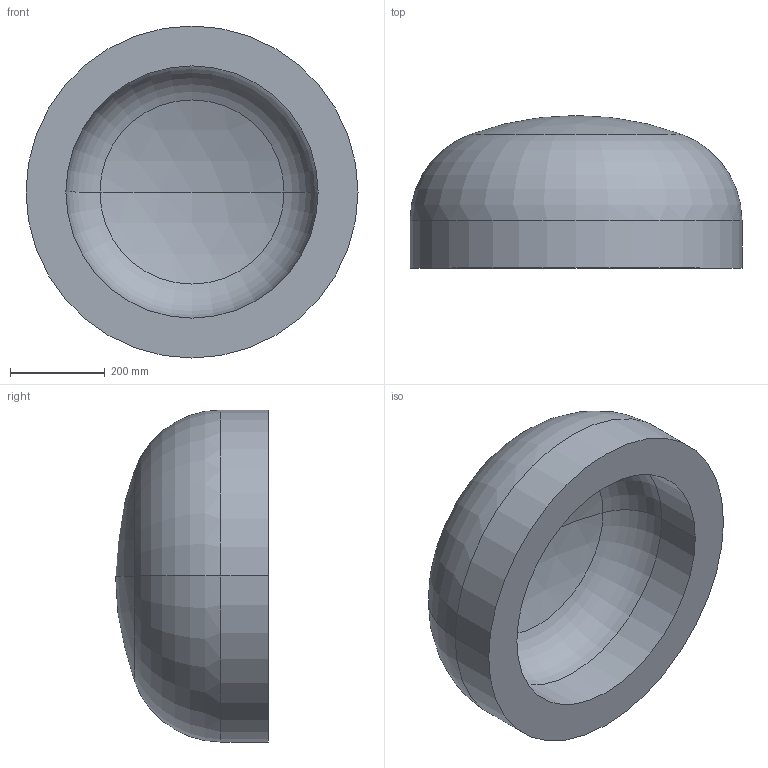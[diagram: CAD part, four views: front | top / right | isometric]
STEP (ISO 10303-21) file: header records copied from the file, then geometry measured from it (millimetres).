
FILE_DESCRIPTION (( 'STEP AP203' ), '1' );
FILE_NAME ('DIN 28013 Korbbogenform_-_Boden DIN 28013 - 700 x 100 - I - s=84.step', '2016-07-01T08:10:59', ( '' ), ( '' ), 'SwSTEP 2.0', 'SolidWorks 2013', '' );
FILE_SCHEMA (( 'CONFIG_CONTROL_DESIGN' ));
Length unit declared in the file: millimetre
Products named in the file (1): DIN 28013 Korbbogenform_-_Boden DIN 28013 - 700 x 100 - I - s=84
Bounding box: 700 x 321.91 x 700 mm (x, y, z)
Volume: 55093023.2 mm3; surface area: 1489075.1 mm2
Topology: 1 solids, 1 shells, 13 faces, 24 edges, 14 vertices
Faces by surface type: torus 4, cylinder 4, sphere 4, plane 1
Entity records: 407 total; most frequent: DIRECTION 72, CARTESIAN_POINT 52, ORIENTED_EDGE 48, AXIS2_PLACEMENT_3D 34, EDGE_CURVE 24, CIRCLE 20, EDGE_LOOP 14, VERTEX_POINT 14
